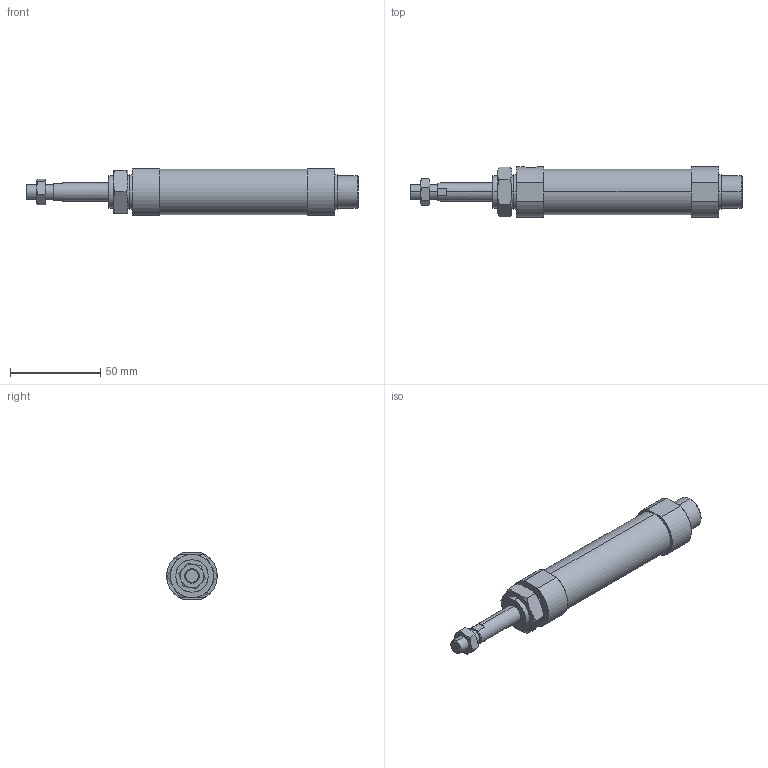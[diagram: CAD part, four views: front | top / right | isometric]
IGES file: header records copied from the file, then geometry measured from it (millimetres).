
Start section: SolidWorks IGES file using analytic representation for surfaces
Global section: file name: C:\Users\Toshiba\Desktop\J#0-20-25-N.IGS; native system: SolidWorks 2014; preprocessor: SolidWorks 2014; author: Toshiba; date: 160308.142615; units: millimetre
Bounding box: 184 x 28 x 26 mm (x, y, z)
Surface area: 15794.7 mm2 (no closed solid volume)
Topology: 0 solids, 0 shells, 89 faces, 1514 edges, 1514 vertices
Faces by surface type: bspline 59, revolution 30
